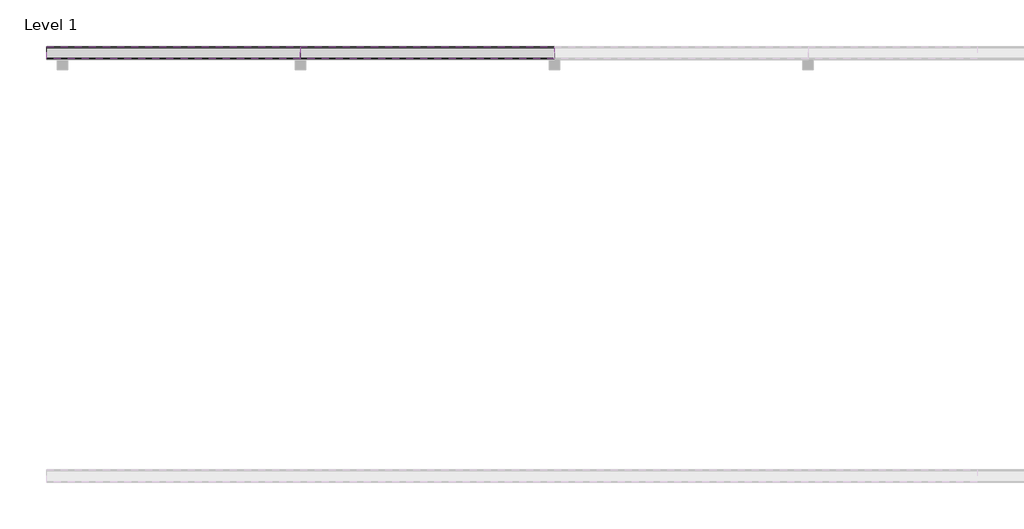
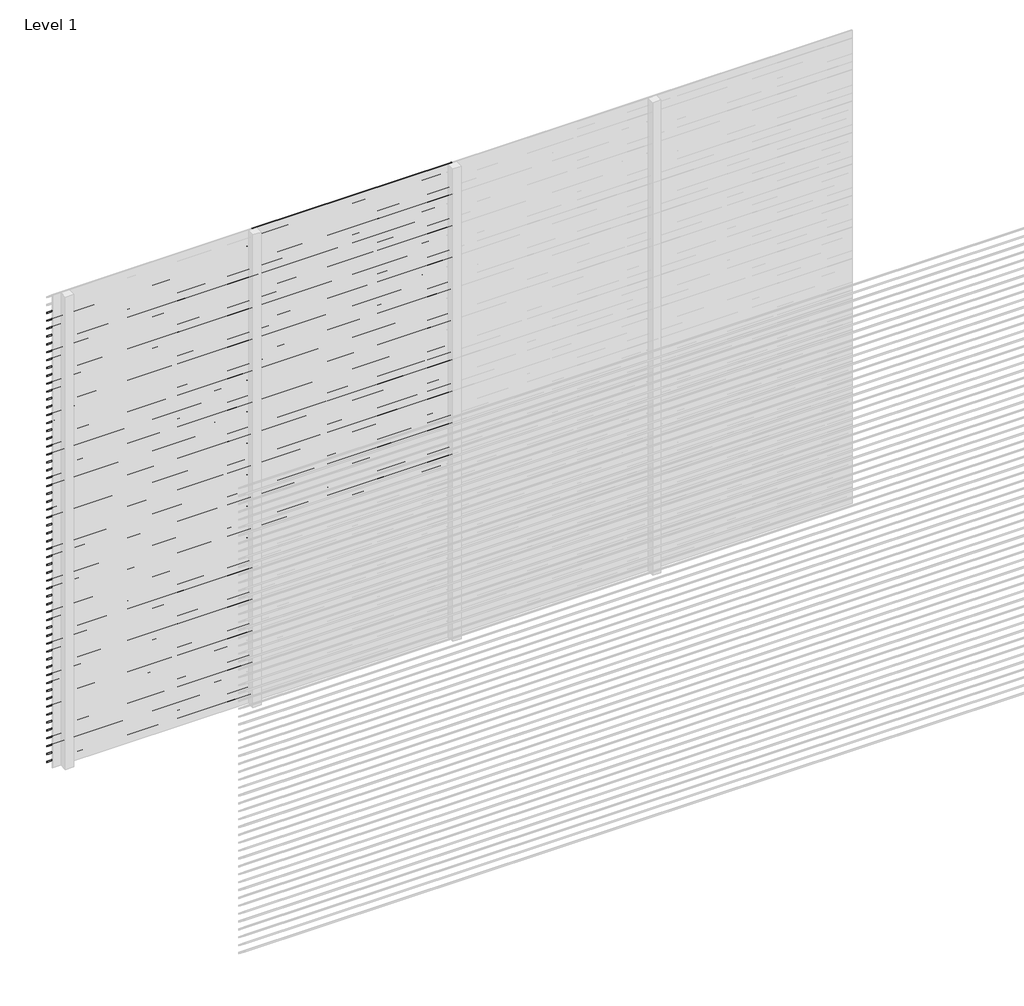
# One storey, part 14 of 16: 98 proxies.
"""IFC4 building model written with IfcOpenShell, lengths in millimetres."""

from ifc_helpers import new_model, si_unit, frame, origin, place, context, project, spatial, polyline, outline, extrude, element, save

model = new_model("IFC4")

# Units and contexts
model_context = context("Model", 3, world=origin())
ifc_project = project(units=[si_unit("LENGTHUNIT", "METRE", prefix="MILLI")], contexts=[model_context])

# Site, building, storey
site = spatial("IfcSite", under=ifc_project)
building = spatial("IfcBuilding", under=site)
storey = spatial("IfcBuildingStorey", under=building, Name="Level 1", Elevation=0.0)

# Proxies
placement = place(None, origin())
element("IfcBuildingElementProxy", 1, Name="Wall Sweeps", at=placement, inside=storey, context=model_context, shape_type="SweptSolid", body=[
    extrude(outline(polyline([(5.0, 2900.0), (5.0, 2898.0), (61.0, 2854.0), (61.0, 2846.0), (3.0, 2891.5714286), (3.0, 2900.0), (5.0, 2900.0)])), frame((0.0, 0.0, 0.0), z_axis=(1.0, 0.0, 0.0), x_axis=(0.0, 1.0, 0.0)), (0.0, 0.0, 1.0), 1200.0),
])
element("IfcBuildingElementProxy", 2, Name="Wall Sweeps", at=placement, inside=storey, context=model_context, shape_type="SweptSolid", body=[
    extrude(outline(polyline([(5.0, 2850.0), (5.0, 2848.0), (61.0, 2804.0), (61.0, 2796.0), (3.0, 2841.5714286), (3.0, 2850.0), (5.0, 2850.0)])), frame((0.0, 0.0, 0.0), z_axis=(1.0, 0.0, 0.0), x_axis=(0.0, 1.0, 0.0)), (0.0, 0.0, 1.0), 1200.0),
])
element("IfcBuildingElementProxy", 3, Name="Wall Sweeps", at=placement, inside=storey, context=model_context, shape_type="SweptSolid", body=[
    extrude(outline(polyline([(5.0, 2800.0), (5.0, 2798.0), (61.0, 2754.0), (61.0, 2746.0), (3.0, 2791.5714286), (3.0, 2800.0), (5.0, 2800.0)])), frame((0.0, 0.0, 0.0), z_axis=(1.0, 0.0, 0.0), x_axis=(0.0, 1.0, 0.0)), (0.0, 0.0, 1.0), 1200.0),
])
element("IfcBuildingElementProxy", 4, Name="Wall Sweeps", at=placement, inside=storey, context=model_context, shape_type="SweptSolid", body=[
    extrude(outline(polyline([(5.0, 2750.0), (5.0, 2748.0), (61.0, 2704.0), (61.0, 2696.0), (3.0, 2741.5714286), (3.0, 2750.0), (5.0, 2750.0)])), frame((0.0, 0.0, 0.0), z_axis=(1.0, 0.0, 0.0), x_axis=(0.0, 1.0, 0.0)), (0.0, 0.0, 1.0), 1200.0),
])
element("IfcBuildingElementProxy", 5, Name="Wall Sweeps", at=placement, inside=storey, context=model_context, shape_type="SweptSolid", body=[
    extrude(outline(polyline([(5.0, 2700.0), (5.0, 2698.0), (61.0, 2654.0), (61.0, 2646.0), (3.0, 2691.5714286), (3.0, 2700.0), (5.0, 2700.0)])), frame((0.0, 0.0, 0.0), z_axis=(1.0, 0.0, 0.0), x_axis=(0.0, 1.0, 0.0)), (0.0, 0.0, 1.0), 1200.0),
])
element("IfcBuildingElementProxy", 6, Name="Wall Sweeps", at=placement, inside=storey, context=model_context, shape_type="SweptSolid", body=[
    extrude(outline(polyline([(5.0, 2650.0), (5.0, 2648.0), (61.0, 2604.0), (61.0, 2596.0), (3.0, 2641.5714286), (3.0, 2650.0), (5.0, 2650.0)])), frame((0.0, 0.0, 0.0), z_axis=(1.0, 0.0, 0.0), x_axis=(0.0, 1.0, 0.0)), (0.0, 0.0, 1.0), 1200.0),
])
element("IfcBuildingElementProxy", 7, Name="Wall Sweeps", at=placement, inside=storey, context=model_context, shape_type="SweptSolid", body=[
    extrude(outline(polyline([(5.0, 2600.0), (5.0, 2598.0), (61.0, 2554.0), (61.0, 2546.0), (3.0, 2591.5714286), (3.0, 2600.0), (5.0, 2600.0)])), frame((0.0, 0.0, 0.0), z_axis=(1.0, 0.0, 0.0), x_axis=(0.0, 1.0, 0.0)), (0.0, 0.0, 1.0), 1200.0),
])
element("IfcBuildingElementProxy", 8, Name="Wall Sweeps", at=placement, inside=storey, context=model_context, shape_type="SweptSolid", body=[
    extrude(outline(polyline([(5.0, 2550.0), (5.0, 2548.0), (61.0, 2504.0), (61.0, 2496.0), (3.0, 2541.5714286), (3.0, 2550.0), (5.0, 2550.0)])), frame((0.0, 0.0, 0.0), z_axis=(1.0, 0.0, 0.0), x_axis=(0.0, 1.0, 0.0)), (0.0, 0.0, 1.0), 1200.0),
])
element("IfcBuildingElementProxy", 9, Name="Wall Sweeps", at=placement, inside=storey, context=model_context, shape_type="SweptSolid", body=[
    extrude(outline(polyline([(5.0, 2500.0), (5.0, 2498.0), (61.0, 2454.0), (61.0, 2446.0), (3.0, 2491.5714286), (3.0, 2500.0), (5.0, 2500.0)])), frame((0.0, 0.0, 0.0), z_axis=(1.0, 0.0, 0.0), x_axis=(0.0, 1.0, 0.0)), (0.0, 0.0, 1.0), 1200.0),
])
element("IfcBuildingElementProxy", 10, Name="Wall Sweeps", at=placement, inside=storey, context=model_context, shape_type="SweptSolid", body=[
    extrude(outline(polyline([(5.0, 2450.0), (5.0, 2448.0), (61.0, 2404.0), (61.0, 2396.0), (3.0, 2441.5714286), (3.0, 2450.0), (5.0, 2450.0)])), frame((0.0, 0.0, 0.0), z_axis=(1.0, 0.0, 0.0), x_axis=(0.0, 1.0, 0.0)), (0.0, 0.0, 1.0), 1200.0),
])
element("IfcBuildingElementProxy", 11, Name="Wall Sweeps", at=placement, inside=storey, context=model_context, shape_type="SweptSolid", body=[
    extrude(outline(polyline([(5.0, 2400.0), (5.0, 2398.0), (61.0, 2354.0), (61.0, 2346.0), (3.0, 2391.5714286), (3.0, 2400.0), (5.0, 2400.0)])), frame((0.0, 0.0, 0.0), z_axis=(1.0, 0.0, 0.0), x_axis=(0.0, 1.0, 0.0)), (0.0, 0.0, 1.0), 1200.0),
])
element("IfcBuildingElementProxy", 12, Name="Wall Sweeps", at=placement, inside=storey, context=model_context, shape_type="SweptSolid", body=[
    extrude(outline(polyline([(5.0, 2350.0), (5.0, 2348.0), (61.0, 2304.0), (61.0, 2296.0), (3.0, 2341.5714286), (3.0, 2350.0), (5.0, 2350.0)])), frame((0.0, 0.0, 0.0), z_axis=(1.0, 0.0, 0.0), x_axis=(0.0, 1.0, 0.0)), (0.0, 0.0, 1.0), 1200.0),
])
element("IfcBuildingElementProxy", 13, Name="Wall Sweeps", at=placement, inside=storey, context=model_context, shape_type="SweptSolid", body=[
    extrude(outline(polyline([(5.0, 2300.0), (5.0, 2298.0), (61.0, 2254.0), (61.0, 2246.0), (3.0, 2291.5714286), (3.0, 2300.0), (5.0, 2300.0)])), frame((0.0, 0.0, 0.0), z_axis=(1.0, 0.0, 0.0), x_axis=(0.0, 1.0, 0.0)), (0.0, 0.0, 1.0), 1200.0),
])
element("IfcBuildingElementProxy", 14, Name="Wall Sweeps", at=placement, inside=storey, context=model_context, shape_type="SweptSolid", body=[
    extrude(outline(polyline([(5.0, 2250.0), (5.0, 2248.0), (61.0, 2204.0), (61.0, 2196.0), (3.0, 2241.5714286), (3.0, 2250.0), (5.0, 2250.0)])), frame((0.0, 0.0, 0.0), z_axis=(1.0, 0.0, 0.0), x_axis=(0.0, 1.0, 0.0)), (0.0, 0.0, 1.0), 1200.0),
])
element("IfcBuildingElementProxy", 15, Name="Wall Sweeps", at=placement, inside=storey, context=model_context, shape_type="SweptSolid", body=[
    extrude(outline(polyline([(5.0, 2200.0), (5.0, 2198.0), (61.0, 2154.0), (61.0, 2146.0), (3.0, 2191.5714286), (3.0, 2200.0), (5.0, 2200.0)])), frame((0.0, 0.0, 0.0), z_axis=(1.0, 0.0, 0.0), x_axis=(0.0, 1.0, 0.0)), (0.0, 0.0, 1.0), 1200.0),
])
element("IfcBuildingElementProxy", 16, Name="Wall Sweeps", at=placement, inside=storey, context=model_context, shape_type="SweptSolid", body=[
    extrude(outline(polyline([(5.0, 2150.0), (5.0, 2148.0), (61.0, 2104.0), (61.0, 2096.0), (3.0, 2141.5714286), (3.0, 2150.0), (5.0, 2150.0)])), frame((0.0, 0.0, 0.0), z_axis=(1.0, 0.0, 0.0), x_axis=(0.0, 1.0, 0.0)), (0.0, 0.0, 1.0), 1200.0),
])
element("IfcBuildingElementProxy", 17, Name="Wall Sweeps", at=placement, inside=storey, context=model_context, shape_type="SweptSolid", body=[
    extrude(outline(polyline([(5.0, 2100.0), (5.0, 2098.0), (61.0, 2054.0), (61.0, 2046.0), (3.0, 2091.5714286), (3.0, 2100.0), (5.0, 2100.0)])), frame((0.0, 0.0, 0.0), z_axis=(1.0, 0.0, 0.0), x_axis=(0.0, 1.0, 0.0)), (0.0, 0.0, 1.0), 1200.0),
])
element("IfcBuildingElementProxy", 18, Name="Wall Sweeps", at=placement, inside=storey, context=model_context, shape_type="SweptSolid", body=[
    extrude(outline(polyline([(5.0, 2050.0), (5.0, 2048.0), (61.0, 2004.0), (61.0, 1996.0), (3.0, 2041.5714286), (3.0, 2050.0), (5.0, 2050.0)])), frame((0.0, 0.0, 0.0), z_axis=(1.0, 0.0, 0.0), x_axis=(0.0, 1.0, 0.0)), (0.0, 0.0, 1.0), 1200.0),
])
element("IfcBuildingElementProxy", 19, Name="Wall Sweeps", at=placement, inside=storey, context=model_context, shape_type="SweptSolid", body=[
    extrude(outline(polyline([(5.0, 2000.0), (5.0, 1998.0), (61.0, 1954.0), (61.0, 1946.0), (3.0, 1991.5714286), (3.0, 2000.0), (5.0, 2000.0)])), frame((0.0, 0.0, 0.0), z_axis=(1.0, 0.0, 0.0), x_axis=(0.0, 1.0, 0.0)), (0.0, 0.0, 1.0), 1200.0),
])
element("IfcBuildingElementProxy", 20, Name="Wall Sweeps", at=placement, inside=storey, context=model_context, shape_type="SweptSolid", body=[
    extrude(outline(polyline([(5.0, 1950.0), (5.0, 1948.0), (61.0, 1904.0), (61.0, 1896.0), (3.0, 1941.5714286), (3.0, 1950.0), (5.0, 1950.0)])), frame((0.0, 0.0, 0.0), z_axis=(1.0, 0.0, 0.0), x_axis=(0.0, 1.0, 0.0)), (0.0, 0.0, 1.0), 1200.0),
])
element("IfcBuildingElementProxy", 21, Name="Wall Sweeps", at=placement, inside=storey, context=model_context, shape_type="SweptSolid", body=[
    extrude(outline(polyline([(5.0, 1900.0), (5.0, 1898.0), (61.0, 1854.0), (61.0, 1846.0), (3.0, 1891.5714286), (3.0, 1900.0), (5.0, 1900.0)])), frame((0.0, 0.0, 0.0), z_axis=(1.0, 0.0, 0.0), x_axis=(0.0, 1.0, 0.0)), (0.0, 0.0, 1.0), 1200.0),
])
element("IfcBuildingElementProxy", 22, Name="Wall Sweeps", at=placement, inside=storey, context=model_context, shape_type="SweptSolid", body=[
    extrude(outline(polyline([(5.0, 1850.0), (5.0, 1848.0), (61.0, 1804.0), (61.0, 1796.0), (3.0, 1841.5714286), (3.0, 1850.0), (5.0, 1850.0)])), frame((0.0, 0.0, 0.0), z_axis=(1.0, 0.0, 0.0), x_axis=(0.0, 1.0, 0.0)), (0.0, 0.0, 1.0), 1200.0),
])
element("IfcBuildingElementProxy", 23, Name="Wall Sweeps", at=placement, inside=storey, context=model_context, shape_type="SweptSolid", body=[
    extrude(outline(polyline([(5.0, 1800.0), (5.0, 1798.0), (61.0, 1754.0), (61.0, 1746.0), (3.0, 1791.5714286), (3.0, 1800.0), (5.0, 1800.0)])), frame((0.0, 0.0, 0.0), z_axis=(1.0, 0.0, 0.0), x_axis=(0.0, 1.0, 0.0)), (0.0, 0.0, 1.0), 1200.0),
])
element("IfcBuildingElementProxy", 24, Name="Wall Sweeps", at=placement, inside=storey, context=model_context, shape_type="SweptSolid", body=[
    extrude(outline(polyline([(5.0, 1750.0), (5.0, 1748.0), (61.0, 1704.0), (61.0, 1696.0), (3.0, 1741.5714286), (3.0, 1750.0), (5.0, 1750.0)])), frame((0.0, 0.0, 0.0), z_axis=(1.0, 0.0, 0.0), x_axis=(0.0, 1.0, 0.0)), (0.0, 0.0, 1.0), 1200.0),
])
element("IfcBuildingElementProxy", 25, Name="Wall Sweeps", at=placement, inside=storey, context=model_context, shape_type="SweptSolid", body=[
    extrude(outline(polyline([(5.0, 1700.0), (5.0, 1698.0), (61.0, 1654.0), (61.0, 1646.0), (3.0, 1691.5714286), (3.0, 1700.0), (5.0, 1700.0)])), frame((0.0, 0.0, 0.0), z_axis=(1.0, 0.0, 0.0), x_axis=(0.0, 1.0, 0.0)), (0.0, 0.0, 1.0), 1200.0),
])
element("IfcBuildingElementProxy", 26, Name="Wall Sweeps", at=placement, inside=storey, context=model_context, shape_type="SweptSolid", body=[
    extrude(outline(polyline([(5.0, 1650.0), (5.0, 1648.0), (61.0, 1604.0), (61.0, 1596.0), (3.0, 1641.5714286), (3.0, 1650.0), (5.0, 1650.0)])), frame((0.0, 0.0, 0.0), z_axis=(1.0, 0.0, 0.0), x_axis=(0.0, 1.0, 0.0)), (0.0, 0.0, 1.0), 1200.0),
])
element("IfcBuildingElementProxy", 27, Name="Wall Sweeps", at=placement, inside=storey, context=model_context, shape_type="SweptSolid", body=[
    extrude(outline(polyline([(5.0, 1600.0), (5.0, 1598.0), (61.0, 1554.0), (61.0, 1546.0), (3.0, 1591.5714286), (3.0, 1600.0), (5.0, 1600.0)])), frame((0.0, 0.0, 0.0), z_axis=(1.0, 0.0, 0.0), x_axis=(0.0, 1.0, 0.0)), (0.0, 0.0, 1.0), 1200.0),
])
element("IfcBuildingElementProxy", 28, Name="Wall Sweeps", at=placement, inside=storey, context=model_context, shape_type="SweptSolid", body=[
    extrude(outline(polyline([(5.0, 1550.0), (5.0, 1548.0), (61.0, 1504.0), (61.0, 1496.0), (3.0, 1541.5714286), (3.0, 1550.0), (5.0, 1550.0)])), frame((0.0, 0.0, 0.0), z_axis=(1.0, 0.0, 0.0), x_axis=(0.0, 1.0, 0.0)), (0.0, 0.0, 1.0), 1200.0),
])
element("IfcBuildingElementProxy", 29, Name="Wall Sweeps", at=placement, inside=storey, context=model_context, shape_type="SweptSolid", body=[
    extrude(outline(polyline([(5.0, 1500.0), (5.0, 1498.0), (61.0, 1454.0), (61.0, 1446.0), (3.0, 1491.5714286), (3.0, 1500.0), (5.0, 1500.0)])), frame((0.0, 0.0, 0.0), z_axis=(1.0, 0.0, 0.0), x_axis=(0.0, 1.0, 0.0)), (0.0, 0.0, 1.0), 1200.0),
])
element("IfcBuildingElementProxy", 30, Name="Wall Sweeps", at=placement, inside=storey, context=model_context, shape_type="SweptSolid", body=[
    extrude(outline(polyline([(5.0, 1450.0), (5.0, 1448.0), (61.0, 1404.0), (61.0, 1396.0), (3.0, 1441.5714286), (3.0, 1450.0), (5.0, 1450.0)])), frame((0.0, 0.0, 0.0), z_axis=(1.0, 0.0, 0.0), x_axis=(0.0, 1.0, 0.0)), (0.0, 0.0, 1.0), 1200.0),
])
element("IfcBuildingElementProxy", 31, Name="Wall Sweeps", at=placement, inside=storey, context=model_context, shape_type="SweptSolid", body=[
    extrude(outline(polyline([(5.0, 1400.0), (5.0, 1398.0), (61.0, 1354.0), (61.0, 1346.0), (3.0, 1391.5714286), (3.0, 1400.0), (5.0, 1400.0)])), frame((0.0, 0.0, 0.0), z_axis=(1.0, 0.0, 0.0), x_axis=(0.0, 1.0, 0.0)), (0.0, 0.0, 1.0), 1200.0),
])
element("IfcBuildingElementProxy", 32, Name="Wall Sweeps", at=placement, inside=storey, context=model_context, shape_type="SweptSolid", body=[
    extrude(outline(polyline([(5.0, 1350.0), (5.0, 1348.0), (61.0, 1304.0), (61.0, 1296.0), (3.0, 1341.5714286), (3.0, 1350.0), (5.0, 1350.0)])), frame((0.0, 0.0, 0.0), z_axis=(1.0, 0.0, 0.0), x_axis=(0.0, 1.0, 0.0)), (0.0, 0.0, 1.0), 1200.0),
])
element("IfcBuildingElementProxy", 33, Name="Wall Sweeps", at=placement, inside=storey, context=model_context, shape_type="SweptSolid", body=[
    extrude(outline(polyline([(5.0, 1300.0), (5.0, 1298.0), (61.0, 1254.0), (61.0, 1246.0), (3.0, 1291.5714286), (3.0, 1300.0), (5.0, 1300.0)])), frame((0.0, 0.0, 0.0), z_axis=(1.0, 0.0, 0.0), x_axis=(0.0, 1.0, 0.0)), (0.0, 0.0, 1.0), 1200.0),
])
element("IfcBuildingElementProxy", 34, Name="Wall Sweeps", at=placement, inside=storey, context=model_context, shape_type="SweptSolid", body=[
    extrude(outline(polyline([(5.0, 1250.0), (5.0, 1248.0), (61.0, 1204.0), (61.0, 1196.0), (3.0, 1241.5714286), (3.0, 1250.0), (5.0, 1250.0)])), frame((0.0, 0.0, 0.0), z_axis=(1.0, 0.0, 0.0), x_axis=(0.0, 1.0, 0.0)), (0.0, 0.0, 1.0), 1200.0),
])
element("IfcBuildingElementProxy", 35, Name="Wall Sweeps", at=placement, inside=storey, context=model_context, shape_type="SweptSolid", body=[
    extrude(outline(polyline([(5.0, 1200.0), (5.0, 1198.0), (61.0, 1154.0), (61.0, 1146.0), (3.0, 1191.5714286), (3.0, 1200.0), (5.0, 1200.0)])), frame((0.0, 0.0, 0.0), z_axis=(1.0, 0.0, 0.0), x_axis=(0.0, 1.0, 0.0)), (0.0, 0.0, 1.0), 1200.0),
])
element("IfcBuildingElementProxy", 36, Name="Wall Sweeps", at=placement, inside=storey, context=model_context, shape_type="SweptSolid", body=[
    extrude(outline(polyline([(5.0, 1150.0), (5.0, 1148.0), (61.0, 1104.0), (61.0, 1096.0), (3.0, 1141.5714286), (3.0, 1150.0), (5.0, 1150.0)])), frame((0.0, 0.0, 0.0), z_axis=(1.0, 0.0, 0.0), x_axis=(0.0, 1.0, 0.0)), (0.0, 0.0, 1.0), 1200.0),
])
element("IfcBuildingElementProxy", 37, Name="Wall Sweeps", at=placement, inside=storey, context=model_context, shape_type="SweptSolid", body=[
    extrude(outline(polyline([(5.0, 1100.0), (5.0, 1098.0), (61.0, 1054.0), (61.0, 1046.0), (3.0, 1091.5714286), (3.0, 1100.0), (5.0, 1100.0)])), frame((0.0, 0.0, 0.0), z_axis=(1.0, 0.0, 0.0), x_axis=(0.0, 1.0, 0.0)), (0.0, 0.0, 1.0), 1200.0),
])
element("IfcBuildingElementProxy", 38, Name="Wall Sweeps", at=placement, inside=storey, context=model_context, shape_type="SweptSolid", body=[
    extrude(outline(polyline([(5.0, 1050.0), (5.0, 1048.0), (61.0, 1004.0), (61.0, 996.0), (3.0, 1041.5714286), (3.0, 1050.0), (5.0, 1050.0)])), frame((0.0, 0.0, 0.0), z_axis=(1.0, 0.0, 0.0), x_axis=(0.0, 1.0, 0.0)), (0.0, 0.0, 1.0), 1200.0),
])
element("IfcBuildingElementProxy", 39, Name="Wall Sweeps", at=placement, inside=storey, context=model_context, shape_type="SweptSolid", body=[
    extrude(outline(polyline([(5.0, 1000.0), (5.0, 998.0), (61.0, 954.0), (61.0, 946.0), (3.0, 991.5714286), (3.0, 1000.0), (5.0, 1000.0)])), frame((0.0, 0.0, 0.0), z_axis=(1.0, 0.0, 0.0), x_axis=(0.0, 1.0, 0.0)), (0.0, 0.0, 1.0), 1200.0),
])
element("IfcBuildingElementProxy", 40, Name="Wall Sweeps", at=placement, inside=storey, context=model_context, shape_type="SweptSolid", body=[
    extrude(outline(polyline([(5.0, 950.0), (5.0, 948.0), (61.0, 904.0), (61.0, 896.0), (3.0, 941.5714286), (3.0, 950.0), (5.0, 950.0)])), frame((0.0, 0.0, 0.0), z_axis=(1.0, 0.0, 0.0), x_axis=(0.0, 1.0, 0.0)), (0.0, 0.0, 1.0), 1200.0),
])
element("IfcBuildingElementProxy", 41, Name="Wall Sweeps", at=placement, inside=storey, context=model_context, shape_type="SweptSolid", body=[
    extrude(outline(polyline([(5.0, 900.0), (5.0, 898.0), (61.0, 854.0), (61.0, 846.0), (3.0, 891.5714286), (3.0, 900.0), (5.0, 900.0)])), frame((0.0, 0.0, 0.0), z_axis=(1.0, 0.0, 0.0), x_axis=(0.0, 1.0, 0.0)), (0.0, 0.0, 1.0), 1200.0),
])
element("IfcBuildingElementProxy", 42, Name="Wall Sweeps", at=placement, inside=storey, context=model_context, shape_type="SweptSolid", body=[
    extrude(outline(polyline([(5.0, 850.0), (5.0, 848.0), (61.0, 804.0), (61.0, 796.0), (3.0, 841.5714286), (3.0, 850.0), (5.0, 850.0)])), frame((0.0, 0.0, 0.0), z_axis=(1.0, 0.0, 0.0), x_axis=(0.0, 1.0, 0.0)), (0.0, 0.0, 1.0), 1200.0),
])
element("IfcBuildingElementProxy", 43, Name="Wall Sweeps", at=placement, inside=storey, context=model_context, shape_type="SweptSolid", body=[
    extrude(outline(polyline([(5.0, 800.0), (5.0, 798.0), (61.0, 754.0), (61.0, 746.0), (3.0, 791.5714286), (3.0, 800.0), (5.0, 800.0)])), frame((0.0, 0.0, 0.0), z_axis=(1.0, 0.0, 0.0), x_axis=(0.0, 1.0, 0.0)), (0.0, 0.0, 1.0), 1200.0),
])
element("IfcBuildingElementProxy", 44, Name="Wall Sweeps", at=placement, inside=storey, context=model_context, shape_type="SweptSolid", body=[
    extrude(outline(polyline([(5.0, 750.0), (5.0, 748.0), (61.0, 704.0), (61.0, 696.0), (3.0, 741.5714286), (3.0, 750.0), (5.0, 750.0)])), frame((0.0, 0.0, 0.0), z_axis=(1.0, 0.0, 0.0), x_axis=(0.0, 1.0, 0.0)), (0.0, 0.0, 1.0), 1200.0),
])
element("IfcBuildingElementProxy", 45, Name="Wall Sweeps", at=placement, inside=storey, context=model_context, shape_type="SweptSolid", body=[
    extrude(outline(polyline([(5.0, 700.0), (5.0, 698.0), (61.0, 654.0), (61.0, 646.0), (3.0, 691.5714286), (3.0, 700.0), (5.0, 700.0)])), frame((0.0, 0.0, 0.0), z_axis=(1.0, 0.0, 0.0), x_axis=(0.0, 1.0, 0.0)), (0.0, 0.0, 1.0), 1200.0),
])
element("IfcBuildingElementProxy", 46, Name="Wall Sweeps", at=placement, inside=storey, context=model_context, shape_type="SweptSolid", body=[
    extrude(outline(polyline([(5.0, 650.0), (5.0, 648.0), (61.0, 604.0), (61.0, 596.0), (3.0, 641.5714286), (3.0, 650.0), (5.0, 650.0)])), frame((0.0, 0.0, 0.0), z_axis=(1.0, 0.0, 0.0), x_axis=(0.0, 1.0, 0.0)), (0.0, 0.0, 1.0), 1200.0),
])
element("IfcBuildingElementProxy", 47, Name="Wall Sweeps", at=placement, inside=storey, context=model_context, shape_type="SweptSolid", body=[
    extrude(outline(polyline([(5.0, 600.0), (5.0, 598.0), (61.0, 554.0), (61.0, 546.0), (3.0, 591.5714286), (3.0, 600.0), (5.0, 600.0)])), frame((0.0, 0.0, 0.0), z_axis=(1.0, 0.0, 0.0), x_axis=(0.0, 1.0, 0.0)), (0.0, 0.0, 1.0), 1200.0),
])
element("IfcBuildingElementProxy", 48, Name="Wall Sweeps", at=placement, inside=storey, context=model_context, shape_type="SweptSolid", body=[
    extrude(outline(polyline([(5.0, 550.0), (5.0, 548.0), (61.0, 504.0), (61.0, 496.0), (3.0, 541.5714286), (3.0, 550.0), (5.0, 550.0)])), frame((0.0, 0.0, 0.0), z_axis=(1.0, 0.0, 0.0), x_axis=(0.0, 1.0, 0.0)), (0.0, 0.0, 1.0), 1200.0),
])
element("IfcBuildingElementProxy", 49, Name="Wall Sweeps", at=placement, inside=storey, context=model_context, shape_type="SweptSolid", body=[
    extrude(outline(polyline([(5.0, 500.0), (5.0, 498.0), (61.0, 454.0), (61.0, 446.0), (3.0, 491.5714286), (3.0, 500.0), (5.0, 500.0)])), frame((0.0, 0.0, 0.0), z_axis=(1.0, 0.0, 0.0), x_axis=(0.0, 1.0, 0.0)), (0.0, 0.0, 1.0), 1200.0),
])
element("IfcBuildingElementProxy", 50, Name="Wall Sweeps", at=placement, inside=storey, context=model_context, shape_type="SweptSolid", body=[
    extrude(outline(polyline([(5.0, 450.0), (5.0, 448.0), (61.0, 404.0), (61.0, 396.0), (3.0, 441.5714286), (3.0, 450.0), (5.0, 450.0)])), frame((0.0, 0.0, 0.0), z_axis=(1.0, 0.0, 0.0), x_axis=(0.0, 1.0, 0.0)), (0.0, 0.0, 1.0), 1200.0),
])
element("IfcBuildingElementProxy", 51, Name="Wall Sweeps", at=placement, inside=storey, context=model_context, shape_type="SweptSolid", body=[
    extrude(outline(polyline([(5.0, 400.0), (5.0, 398.0), (61.0, 354.0), (61.0, 346.0), (3.0, 391.5714286), (3.0, 400.0), (5.0, 400.0)])), frame((0.0, 0.0, 0.0), z_axis=(1.0, 0.0, 0.0), x_axis=(0.0, 1.0, 0.0)), (0.0, 0.0, 1.0), 1200.0),
])
element("IfcBuildingElementProxy", 52, Name="Wall Sweeps", at=placement, inside=storey, context=model_context, shape_type="SweptSolid", body=[
    extrude(outline(polyline([(5.0, 350.0), (5.0, 348.0), (61.0, 304.0), (61.0, 296.0), (3.0, 341.5714286), (3.0, 350.0), (5.0, 350.0)])), frame((0.0, 0.0, 0.0), z_axis=(1.0, 0.0, 0.0), x_axis=(0.0, 1.0, 0.0)), (0.0, 0.0, 1.0), 1200.0),
])
element("IfcBuildingElementProxy", 53, Name="Wall Sweeps", at=placement, inside=storey, context=model_context, shape_type="SweptSolid", body=[
    extrude(outline(polyline([(5.0, 300.0), (5.0, 298.0), (61.0, 254.0), (61.0, 246.0), (3.0, 291.5714286), (3.0, 300.0), (5.0, 300.0)])), frame((0.0, 0.0, 0.0), z_axis=(1.0, 0.0, 0.0), x_axis=(0.0, 1.0, 0.0)), (0.0, 0.0, 1.0), 1200.0),
])
element("IfcBuildingElementProxy", 54, Name="Wall Sweeps", at=placement, inside=storey, context=model_context, shape_type="SweptSolid", body=[
    extrude(outline(polyline([(5.0, 250.0), (5.0, 248.0), (61.0, 204.0), (61.0, 196.0), (3.0, 241.5714286), (3.0, 250.0), (5.0, 250.0)])), frame((0.0, 0.0, 0.0), z_axis=(1.0, 0.0, 0.0), x_axis=(0.0, 1.0, 0.0)), (0.0, 0.0, 1.0), 1200.0),
])
element("IfcBuildingElementProxy", 55, Name="Wall Sweeps", at=placement, inside=storey, context=model_context, shape_type="SweptSolid", body=[
    extrude(outline(polyline([(5.0, 200.0), (5.0, 198.0), (61.0, 154.0), (61.0, 146.0), (3.0, 191.5714286), (3.0, 200.0), (5.0, 200.0)])), frame((0.0, 0.0, 0.0), z_axis=(1.0, 0.0, 0.0), x_axis=(0.0, 1.0, 0.0)), (0.0, 0.0, 1.0), 1200.0),
])
element("IfcBuildingElementProxy", 56, Name="Wall Sweeps", at=placement, inside=storey, context=model_context, shape_type="SweptSolid", body=[
    extrude(outline(polyline([(5.0, 150.0), (5.0, 148.0), (61.0, 104.0), (61.0, 96.0), (3.0, 141.5714286), (3.0, 150.0), (5.0, 150.0)])), frame((0.0, 0.0, 0.0), z_axis=(1.0, 0.0, 0.0), x_axis=(0.0, 1.0, 0.0)), (0.0, 0.0, 1.0), 1200.0),
])
element("IfcBuildingElementProxy", 57, Name="Wall Sweeps", at=placement, inside=storey, context=model_context, shape_type="SweptSolid", body=[
    extrude(outline(polyline([(5.0, 100.0), (5.0, 98.0), (61.0, 54.0), (61.0, 46.0), (3.0, 91.5714286), (3.0, 100.0), (5.0, 100.0)])), frame((0.0, 0.0, 0.0), z_axis=(1.0, 0.0, 0.0), x_axis=(0.0, 1.0, 0.0)), (0.0, 0.0, 1.0), 1200.0),
])
element("IfcBuildingElementProxy", 58, Name="Wall Sweeps", at=placement, inside=storey, context=model_context, shape_type="SweptSolid", body=[
    extrude(outline(polyline([(5.0, 50.0), (5.0, 48.0), (61.0, 4.0), (61.0, -4.0), (3.0, 41.5714286), (3.0, 50.0), (5.0, 50.0)])), frame((0.0, 0.0, 0.0), z_axis=(1.0, 0.0, 0.0), x_axis=(0.0, 1.0, 0.0)), (0.0, 0.0, 1.0), 1200.0),
])
element("IfcBuildingElementProxy", 59, Name="Wall Sweeps", at=placement, inside=storey, context=model_context, shape_type="SweptSolid", body=[
    extrude(outline(polyline([(5.0, 3000.0), (5.0, 2998.0), (61.0, 2954.0), (61.0, 2946.0), (3.0, 2991.5714286), (3.0, 3000.0), (5.0, 3000.0)])), frame((1200.0, 0.0, 0.0), z_axis=(1.0, 0.0, 0.0), x_axis=(0.0, 1.0, 0.0)), (0.0, 0.0, 1.0), 1200.0),
])
element("IfcBuildingElementProxy", 60, Name="Wall Sweeps", at=placement, inside=storey, context=model_context, shape_type="SweptSolid", body=[
    extrude(outline(polyline([(5.0, 2950.0), (5.0, 2948.0), (61.0, 2904.0), (61.0, 2896.0), (3.0, 2941.5714286), (3.0, 2950.0), (5.0, 2950.0)])), frame((1200.0, 0.0, 0.0), z_axis=(1.0, 0.0, 0.0), x_axis=(0.0, 1.0, 0.0)), (0.0, 0.0, 1.0), 1200.0),
])
element("IfcBuildingElementProxy", 61, Name="Wall Sweeps", at=placement, inside=storey, context=model_context, shape_type="SweptSolid", body=[
    extrude(outline(polyline([(5.0, 2900.0), (5.0, 2898.0), (61.0, 2854.0), (61.0, 2846.0), (3.0, 2891.5714286), (3.0, 2900.0), (5.0, 2900.0)])), frame((1200.0, 0.0, 0.0), z_axis=(1.0, 0.0, 0.0), x_axis=(0.0, 1.0, 0.0)), (0.0, 0.0, 1.0), 1200.0),
])
element("IfcBuildingElementProxy", 62, Name="Wall Sweeps", at=placement, inside=storey, context=model_context, shape_type="SweptSolid", body=[
    extrude(outline(polyline([(5.0, 2850.0), (5.0, 2848.0), (61.0, 2804.0), (61.0, 2796.0), (3.0, 2841.5714286), (3.0, 2850.0), (5.0, 2850.0)])), frame((1200.0, 0.0, 0.0), z_axis=(1.0, 0.0, 0.0), x_axis=(0.0, 1.0, 0.0)), (0.0, 0.0, 1.0), 1200.0),
])
element("IfcBuildingElementProxy", 63, Name="Wall Sweeps", at=placement, inside=storey, context=model_context, shape_type="SweptSolid", body=[
    extrude(outline(polyline([(5.0, 2800.0), (5.0, 2798.0), (61.0, 2754.0), (61.0, 2746.0), (3.0, 2791.5714286), (3.0, 2800.0), (5.0, 2800.0)])), frame((1200.0, 0.0, 0.0), z_axis=(1.0, 0.0, 0.0), x_axis=(0.0, 1.0, 0.0)), (0.0, 0.0, 1.0), 1200.0),
])
element("IfcBuildingElementProxy", 64, Name="Wall Sweeps", at=placement, inside=storey, context=model_context, shape_type="SweptSolid", body=[
    extrude(outline(polyline([(5.0, 2750.0), (5.0, 2748.0), (61.0, 2704.0), (61.0, 2696.0), (3.0, 2741.5714286), (3.0, 2750.0), (5.0, 2750.0)])), frame((1200.0, 0.0, 0.0), z_axis=(1.0, 0.0, 0.0), x_axis=(0.0, 1.0, 0.0)), (0.0, 0.0, 1.0), 1200.0),
])
element("IfcBuildingElementProxy", 65, Name="Wall Sweeps", at=placement, inside=storey, context=model_context, shape_type="SweptSolid", body=[
    extrude(outline(polyline([(5.0, 2700.0), (5.0, 2698.0), (61.0, 2654.0), (61.0, 2646.0), (3.0, 2691.5714286), (3.0, 2700.0), (5.0, 2700.0)])), frame((1200.0, 0.0, 0.0), z_axis=(1.0, 0.0, 0.0), x_axis=(0.0, 1.0, 0.0)), (0.0, 0.0, 1.0), 1200.0),
])
element("IfcBuildingElementProxy", 66, Name="Wall Sweeps", at=placement, inside=storey, context=model_context, shape_type="SweptSolid", body=[
    extrude(outline(polyline([(5.0, 2650.0), (5.0, 2648.0), (61.0, 2604.0), (61.0, 2596.0), (3.0, 2641.5714286), (3.0, 2650.0), (5.0, 2650.0)])), frame((1200.0, 0.0, 0.0), z_axis=(1.0, 0.0, 0.0), x_axis=(0.0, 1.0, 0.0)), (0.0, 0.0, 1.0), 1200.0),
])
element("IfcBuildingElementProxy", 67, Name="Wall Sweeps", at=placement, inside=storey, context=model_context, shape_type="SweptSolid", body=[
    extrude(outline(polyline([(5.0, 2600.0), (5.0, 2598.0), (61.0, 2554.0), (61.0, 2546.0), (3.0, 2591.5714286), (3.0, 2600.0), (5.0, 2600.0)])), frame((1200.0, 0.0, 0.0), z_axis=(1.0, 0.0, 0.0), x_axis=(0.0, 1.0, 0.0)), (0.0, 0.0, 1.0), 1200.0),
])
element("IfcBuildingElementProxy", 68, Name="Wall Sweeps", at=placement, inside=storey, context=model_context, shape_type="SweptSolid", body=[
    extrude(outline(polyline([(5.0, 2550.0), (5.0, 2548.0), (61.0, 2504.0), (61.0, 2496.0), (3.0, 2541.5714286), (3.0, 2550.0), (5.0, 2550.0)])), frame((1200.0, 0.0, 0.0), z_axis=(1.0, 0.0, 0.0), x_axis=(0.0, 1.0, 0.0)), (0.0, 0.0, 1.0), 1200.0),
])
element("IfcBuildingElementProxy", 69, Name="Wall Sweeps", at=placement, inside=storey, context=model_context, shape_type="SweptSolid", body=[
    extrude(outline(polyline([(5.0, 2500.0), (5.0, 2498.0), (61.0, 2454.0), (61.0, 2446.0), (3.0, 2491.5714286), (3.0, 2500.0), (5.0, 2500.0)])), frame((1200.0, 0.0, 0.0), z_axis=(1.0, 0.0, 0.0), x_axis=(0.0, 1.0, 0.0)), (0.0, 0.0, 1.0), 1200.0),
])
element("IfcBuildingElementProxy", 70, Name="Wall Sweeps", at=placement, inside=storey, context=model_context, shape_type="SweptSolid", body=[
    extrude(outline(polyline([(5.0, 2450.0), (5.0, 2448.0), (61.0, 2404.0), (61.0, 2396.0), (3.0, 2441.5714286), (3.0, 2450.0), (5.0, 2450.0)])), frame((1200.0, 0.0, 0.0), z_axis=(1.0, 0.0, 0.0), x_axis=(0.0, 1.0, 0.0)), (0.0, 0.0, 1.0), 1200.0),
])
element("IfcBuildingElementProxy", 71, Name="Wall Sweeps", at=placement, inside=storey, context=model_context, shape_type="SweptSolid", body=[
    extrude(outline(polyline([(5.0, 2400.0), (5.0, 2398.0), (61.0, 2354.0), (61.0, 2346.0), (3.0, 2391.5714286), (3.0, 2400.0), (5.0, 2400.0)])), frame((1200.0, 0.0, 0.0), z_axis=(1.0, 0.0, 0.0), x_axis=(0.0, 1.0, 0.0)), (0.0, 0.0, 1.0), 1200.0),
])
element("IfcBuildingElementProxy", 72, Name="Wall Sweeps", at=placement, inside=storey, context=model_context, shape_type="SweptSolid", body=[
    extrude(outline(polyline([(5.0, 2350.0), (5.0, 2348.0), (61.0, 2304.0), (61.0, 2296.0), (3.0, 2341.5714286), (3.0, 2350.0), (5.0, 2350.0)])), frame((1200.0, 0.0, 0.0), z_axis=(1.0, 0.0, 0.0), x_axis=(0.0, 1.0, 0.0)), (0.0, 0.0, 1.0), 1200.0),
])
element("IfcBuildingElementProxy", 73, Name="Wall Sweeps", at=placement, inside=storey, context=model_context, shape_type="SweptSolid", body=[
    extrude(outline(polyline([(5.0, 2300.0), (5.0, 2298.0), (61.0, 2254.0), (61.0, 2246.0), (3.0, 2291.5714286), (3.0, 2300.0), (5.0, 2300.0)])), frame((1200.0, 0.0, 0.0), z_axis=(1.0, 0.0, 0.0), x_axis=(0.0, 1.0, 0.0)), (0.0, 0.0, 1.0), 1200.0),
])
element("IfcBuildingElementProxy", 74, Name="Wall Sweeps", at=placement, inside=storey, context=model_context, shape_type="SweptSolid", body=[
    extrude(outline(polyline([(5.0, 2250.0), (5.0, 2248.0), (61.0, 2204.0), (61.0, 2196.0), (3.0, 2241.5714286), (3.0, 2250.0), (5.0, 2250.0)])), frame((1200.0, 0.0, 0.0), z_axis=(1.0, 0.0, 0.0), x_axis=(0.0, 1.0, 0.0)), (0.0, 0.0, 1.0), 1200.0),
])
element("IfcBuildingElementProxy", 75, Name="Wall Sweeps", at=placement, inside=storey, context=model_context, shape_type="SweptSolid", body=[
    extrude(outline(polyline([(5.0, 2200.0), (5.0, 2198.0), (61.0, 2154.0), (61.0, 2146.0), (3.0, 2191.5714286), (3.0, 2200.0), (5.0, 2200.0)])), frame((1200.0, 0.0, 0.0), z_axis=(1.0, 0.0, 0.0), x_axis=(0.0, 1.0, 0.0)), (0.0, 0.0, 1.0), 1200.0),
])
element("IfcBuildingElementProxy", 76, Name="Wall Sweeps", at=placement, inside=storey, context=model_context, shape_type="SweptSolid", body=[
    extrude(outline(polyline([(5.0, 2150.0), (5.0, 2148.0), (61.0, 2104.0), (61.0, 2096.0), (3.0, 2141.5714286), (3.0, 2150.0), (5.0, 2150.0)])), frame((1200.0, 0.0, 0.0), z_axis=(1.0, 0.0, 0.0), x_axis=(0.0, 1.0, 0.0)), (0.0, 0.0, 1.0), 1200.0),
])
element("IfcBuildingElementProxy", 77, Name="Wall Sweeps", at=placement, inside=storey, context=model_context, shape_type="SweptSolid", body=[
    extrude(outline(polyline([(5.0, 2100.0), (5.0, 2098.0), (61.0, 2054.0), (61.0, 2046.0), (3.0, 2091.5714286), (3.0, 2100.0), (5.0, 2100.0)])), frame((1200.0, 0.0, 0.0), z_axis=(1.0, 0.0, 0.0), x_axis=(0.0, 1.0, 0.0)), (0.0, 0.0, 1.0), 1200.0),
])
element("IfcBuildingElementProxy", 78, Name="Wall Sweeps", at=placement, inside=storey, context=model_context, shape_type="SweptSolid", body=[
    extrude(outline(polyline([(5.0, 2050.0), (5.0, 2048.0), (61.0, 2004.0), (61.0, 1996.0), (3.0, 2041.5714286), (3.0, 2050.0), (5.0, 2050.0)])), frame((1200.0, 0.0, 0.0), z_axis=(1.0, 0.0, 0.0), x_axis=(0.0, 1.0, 0.0)), (0.0, 0.0, 1.0), 1200.0),
])
element("IfcBuildingElementProxy", 79, Name="Wall Sweeps", at=placement, inside=storey, context=model_context, shape_type="SweptSolid", body=[
    extrude(outline(polyline([(5.0, 2000.0), (5.0, 1998.0), (61.0, 1954.0), (61.0, 1946.0), (3.0, 1991.5714286), (3.0, 2000.0), (5.0, 2000.0)])), frame((1200.0, 0.0, 0.0), z_axis=(1.0, 0.0, 0.0), x_axis=(0.0, 1.0, 0.0)), (0.0, 0.0, 1.0), 1200.0),
])
element("IfcBuildingElementProxy", 80, Name="Wall Sweeps", at=placement, inside=storey, context=model_context, shape_type="SweptSolid", body=[
    extrude(outline(polyline([(5.0, 1950.0), (5.0, 1948.0), (61.0, 1904.0), (61.0, 1896.0), (3.0, 1941.5714286), (3.0, 1950.0), (5.0, 1950.0)])), frame((1200.0, 0.0, 0.0), z_axis=(1.0, 0.0, 0.0), x_axis=(0.0, 1.0, 0.0)), (0.0, 0.0, 1.0), 1200.0),
])
element("IfcBuildingElementProxy", 81, Name="Wall Sweeps", at=placement, inside=storey, context=model_context, shape_type="SweptSolid", body=[
    extrude(outline(polyline([(5.0, 1900.0), (5.0, 1898.0), (61.0, 1854.0), (61.0, 1846.0), (3.0, 1891.5714286), (3.0, 1900.0), (5.0, 1900.0)])), frame((1200.0, 0.0, 0.0), z_axis=(1.0, 0.0, 0.0), x_axis=(0.0, 1.0, 0.0)), (0.0, 0.0, 1.0), 1200.0),
])
element("IfcBuildingElementProxy", 82, Name="Wall Sweeps", at=placement, inside=storey, context=model_context, shape_type="SweptSolid", body=[
    extrude(outline(polyline([(5.0, 1850.0), (5.0, 1848.0), (61.0, 1804.0), (61.0, 1796.0), (3.0, 1841.5714286), (3.0, 1850.0), (5.0, 1850.0)])), frame((1200.0, 0.0, 0.0), z_axis=(1.0, 0.0, 0.0), x_axis=(0.0, 1.0, 0.0)), (0.0, 0.0, 1.0), 1200.0),
])
element("IfcBuildingElementProxy", 83, Name="Wall Sweeps", at=placement, inside=storey, context=model_context, shape_type="SweptSolid", body=[
    extrude(outline(polyline([(5.0, 1800.0), (5.0, 1798.0), (61.0, 1754.0), (61.0, 1746.0), (3.0, 1791.5714286), (3.0, 1800.0), (5.0, 1800.0)])), frame((1200.0, 0.0, 0.0), z_axis=(1.0, 0.0, 0.0), x_axis=(0.0, 1.0, 0.0)), (0.0, 0.0, 1.0), 1200.0),
])
element("IfcBuildingElementProxy", 84, Name="Wall Sweeps", at=placement, inside=storey, context=model_context, shape_type="SweptSolid", body=[
    extrude(outline(polyline([(5.0, 1750.0), (5.0, 1748.0), (61.0, 1704.0), (61.0, 1696.0), (3.0, 1741.5714286), (3.0, 1750.0), (5.0, 1750.0)])), frame((1200.0, 0.0, 0.0), z_axis=(1.0, 0.0, 0.0), x_axis=(0.0, 1.0, 0.0)), (0.0, 0.0, 1.0), 1200.0),
])
element("IfcBuildingElementProxy", 85, Name="Wall Sweeps", at=placement, inside=storey, context=model_context, shape_type="SweptSolid", body=[
    extrude(outline(polyline([(5.0, 1700.0), (5.0, 1698.0), (61.0, 1654.0), (61.0, 1646.0), (3.0, 1691.5714286), (3.0, 1700.0), (5.0, 1700.0)])), frame((1200.0, 0.0, 0.0), z_axis=(1.0, 0.0, 0.0), x_axis=(0.0, 1.0, 0.0)), (0.0, 0.0, 1.0), 1200.0),
])
element("IfcBuildingElementProxy", 86, Name="Wall Sweeps", at=placement, inside=storey, context=model_context, shape_type="SweptSolid", body=[
    extrude(outline(polyline([(5.0, 1650.0), (5.0, 1648.0), (61.0, 1604.0), (61.0, 1596.0), (3.0, 1641.5714286), (3.0, 1650.0), (5.0, 1650.0)])), frame((1200.0, 0.0, 0.0), z_axis=(1.0, 0.0, 0.0), x_axis=(0.0, 1.0, 0.0)), (0.0, 0.0, 1.0), 1200.0),
])
element("IfcBuildingElementProxy", 87, Name="Wall Sweeps", at=placement, inside=storey, context=model_context, shape_type="SweptSolid", body=[
    extrude(outline(polyline([(5.0, 1600.0), (5.0, 1598.0), (61.0, 1554.0), (61.0, 1546.0), (3.0, 1591.5714286), (3.0, 1600.0), (5.0, 1600.0)])), frame((1200.0, 0.0, 0.0), z_axis=(1.0, 0.0, 0.0), x_axis=(0.0, 1.0, 0.0)), (0.0, 0.0, 1.0), 1200.0),
])
element("IfcBuildingElementProxy", 88, Name="Wall Sweeps", at=placement, inside=storey, context=model_context, shape_type="SweptSolid", body=[
    extrude(outline(polyline([(5.0, 1550.0), (5.0, 1548.0), (61.0, 1504.0), (61.0, 1496.0), (3.0, 1541.5714286), (3.0, 1550.0), (5.0, 1550.0)])), frame((1200.0, 0.0, 0.0), z_axis=(1.0, 0.0, 0.0), x_axis=(0.0, 1.0, 0.0)), (0.0, 0.0, 1.0), 1200.0),
])
element("IfcBuildingElementProxy", 89, Name="Wall Sweeps", at=placement, inside=storey, context=model_context, shape_type="SweptSolid", body=[
    extrude(outline(polyline([(5.0, 1500.0), (5.0, 1498.0), (61.0, 1454.0), (61.0, 1446.0), (3.0, 1491.5714286), (3.0, 1500.0), (5.0, 1500.0)])), frame((1200.0, 0.0, 0.0), z_axis=(1.0, 0.0, 0.0), x_axis=(0.0, 1.0, 0.0)), (0.0, 0.0, 1.0), 1200.0),
])
element("IfcBuildingElementProxy", 90, Name="Wall Sweeps", at=placement, inside=storey, context=model_context, shape_type="SweptSolid", body=[
    extrude(outline(polyline([(5.0, 1450.0), (5.0, 1448.0), (61.0, 1404.0), (61.0, 1396.0), (3.0, 1441.5714286), (3.0, 1450.0), (5.0, 1450.0)])), frame((1200.0, 0.0, 0.0), z_axis=(1.0, 0.0, 0.0), x_axis=(0.0, 1.0, 0.0)), (0.0, 0.0, 1.0), 1200.0),
])
element("IfcBuildingElementProxy", 91, Name="Wall Sweeps", at=placement, inside=storey, context=model_context, shape_type="SweptSolid", body=[
    extrude(outline(polyline([(5.0, 1400.0), (5.0, 1398.0), (61.0, 1354.0), (61.0, 1346.0), (3.0, 1391.5714286), (3.0, 1400.0), (5.0, 1400.0)])), frame((1200.0, 0.0, 0.0), z_axis=(1.0, 0.0, 0.0), x_axis=(0.0, 1.0, 0.0)), (0.0, 0.0, 1.0), 1200.0),
])
element("IfcBuildingElementProxy", 92, Name="Wall Sweeps", at=placement, inside=storey, context=model_context, shape_type="SweptSolid", body=[
    extrude(outline(polyline([(5.0, 1350.0), (5.0, 1348.0), (61.0, 1304.0), (61.0, 1296.0), (3.0, 1341.5714286), (3.0, 1350.0), (5.0, 1350.0)])), frame((1200.0, 0.0, 0.0), z_axis=(1.0, 0.0, 0.0), x_axis=(0.0, 1.0, 0.0)), (0.0, 0.0, 1.0), 1200.0),
])
element("IfcBuildingElementProxy", 93, Name="Wall Sweeps", at=placement, inside=storey, context=model_context, shape_type="SweptSolid", body=[
    extrude(outline(polyline([(5.0, 1300.0), (5.0, 1298.0), (61.0, 1254.0), (61.0, 1246.0), (3.0, 1291.5714286), (3.0, 1300.0), (5.0, 1300.0)])), frame((1200.0, 0.0, 0.0), z_axis=(1.0, 0.0, 0.0), x_axis=(0.0, 1.0, 0.0)), (0.0, 0.0, 1.0), 1200.0),
])
element("IfcBuildingElementProxy", 94, Name="Wall Sweeps", at=placement, inside=storey, context=model_context, shape_type="SweptSolid", body=[
    extrude(outline(polyline([(5.0, 1250.0), (5.0, 1248.0), (61.0, 1204.0), (61.0, 1196.0), (3.0, 1241.5714286), (3.0, 1250.0), (5.0, 1250.0)])), frame((1200.0, 0.0, 0.0), z_axis=(1.0, 0.0, 0.0), x_axis=(0.0, 1.0, 0.0)), (0.0, 0.0, 1.0), 1200.0),
])
element("IfcBuildingElementProxy", 95, Name="Wall Sweeps", at=placement, inside=storey, context=model_context, shape_type="SweptSolid", body=[
    extrude(outline(polyline([(5.0, 1200.0), (5.0, 1198.0), (61.0, 1154.0), (61.0, 1146.0), (3.0, 1191.5714286), (3.0, 1200.0), (5.0, 1200.0)])), frame((1200.0, 0.0, 0.0), z_axis=(1.0, 0.0, 0.0), x_axis=(0.0, 1.0, 0.0)), (0.0, 0.0, 1.0), 1200.0),
])
element("IfcBuildingElementProxy", 96, Name="Wall Sweeps", at=placement, inside=storey, context=model_context, shape_type="SweptSolid", body=[
    extrude(outline(polyline([(5.0, 1150.0), (5.0, 1148.0), (61.0, 1104.0), (61.0, 1096.0), (3.0, 1141.5714286), (3.0, 1150.0), (5.0, 1150.0)])), frame((1200.0, 0.0, 0.0), z_axis=(1.0, 0.0, 0.0), x_axis=(0.0, 1.0, 0.0)), (0.0, 0.0, 1.0), 1200.0),
])
element("IfcBuildingElementProxy", 97, Name="Wall Sweeps", at=placement, inside=storey, context=model_context, shape_type="SweptSolid", body=[
    extrude(outline(polyline([(5.0, 1100.0), (5.0, 1098.0), (61.0, 1054.0), (61.0, 1046.0), (3.0, 1091.5714286), (3.0, 1100.0), (5.0, 1100.0)])), frame((1200.0, 0.0, 0.0), z_axis=(1.0, 0.0, 0.0), x_axis=(0.0, 1.0, 0.0)), (0.0, 0.0, 1.0), 1200.0),
])
element("IfcBuildingElementProxy", 98, Name="Wall Sweeps", at=placement, inside=storey, context=model_context, shape_type="SweptSolid", body=[
    extrude(outline(polyline([(5.0, 1050.0), (5.0, 1048.0), (61.0, 1004.0), (61.0, 996.0), (3.0, 1041.5714286), (3.0, 1050.0), (5.0, 1050.0)])), frame((1200.0, 0.0, 0.0), z_axis=(1.0, 0.0, 0.0), x_axis=(0.0, 1.0, 0.0)), (0.0, 0.0, 1.0), 1200.0),
])

save(model, "model.ifc")
